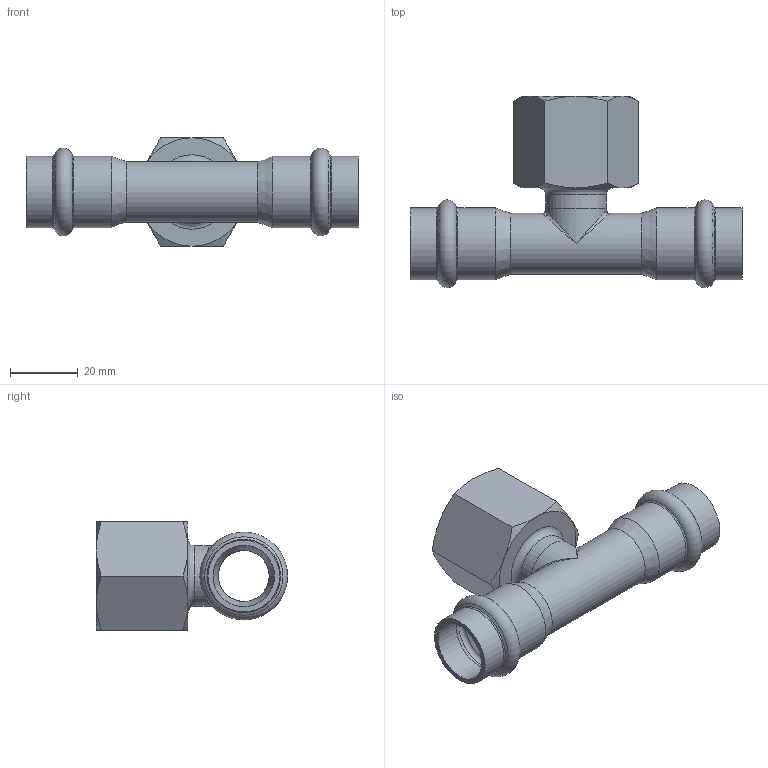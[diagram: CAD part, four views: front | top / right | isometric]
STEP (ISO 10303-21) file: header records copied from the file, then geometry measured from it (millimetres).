
FILE_DESCRIPTION((''),'2;1');
FILE_NAME('G:\Technics\CAD\Bauteile\018\69130G183418(2).stp','2008-02-14T12:55:51',('herberg'),(''),'Autodesk Inventor 2008','Autodesk Inventor 2008','');
FILE_SCHEMA(('AUTOMOTIVE_DESIGN { 1 0 10303 214 1 1 1 1 }'));
Length unit declared in the file: millimetre
Products named in the file (3): 69130G183418(2); LM_6913018(1); IG1834(0) 060802
Assembly tree (2 placements, depth 2):
  69130G183418(2)
    LM_6913018(1)
    IG1834(0) 060802
Bounding box: 98 x 56.45 x 32 mm (x, y, z)
Volume: 22724 mm3; surface area: 19032 mm2
Topology: 2 solids, 2 shells, 67 faces, 149 edges, 80 vertices
Faces by surface type: cone 22, bspline 16, cylinder 13, plane 12, torus 4
Full cylindrical faces by diameter (mm): 15 x2, 18 x3, 18.15 x4, 21.15 x4
Entity records: 2538 total; most frequent: CARTESIAN_POINT 1325, DIRECTION 244, ORIENTED_EDGE 186, AXIS2_PLACEMENT_3D 119, EDGE_LOOP 114, EDGE_CURVE 93, VERTEX_POINT 71, FACE_OUTER_BOUND 67
